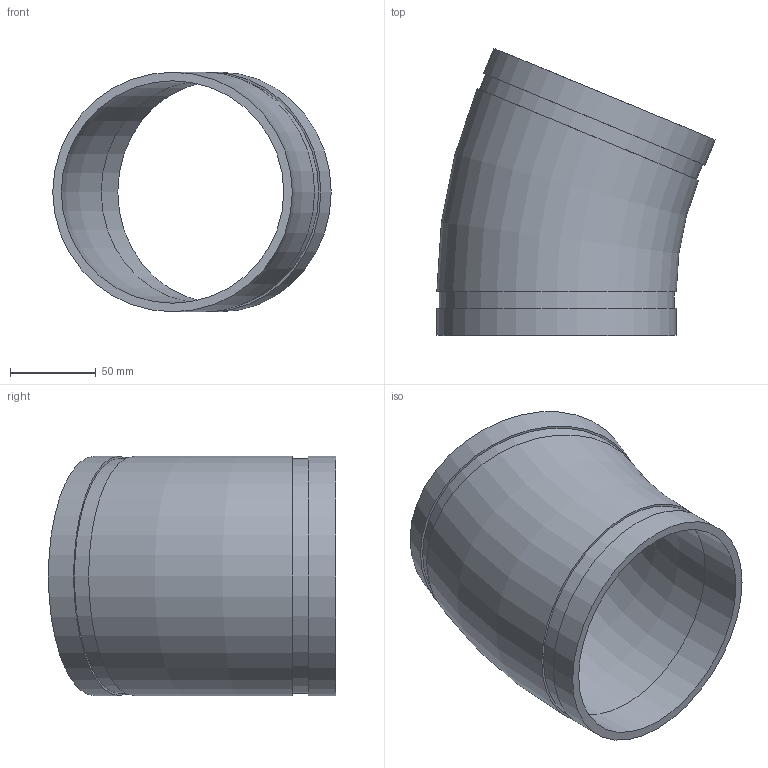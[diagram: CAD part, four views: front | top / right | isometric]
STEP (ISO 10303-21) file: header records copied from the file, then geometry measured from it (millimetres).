
FILE_DESCRIPTION(/* description */ ('VIC ELBOW 22 1/2 DEG No 12 (OGS)','CAx-IF Rec.Pracs.---Representation and Presentation of Product Manufacturing Information (PMI)---4.0---2014-10-13'),/* implementation_level */ '2;1');
FILE_NAME(/* name */ 'C:\Users\Vjadhav\Desktop\CAD for Inventor\1\12\STEP\Victaulic_IPS_Elbow 22.5 Deg_No 12 (OGS)\Victaulic_IPS_Elbow 22.5 Deg_No 12 (OGS)_05.0 (139.7) (125).stp',/* time_stamp */ '2021-12-22T09:20:16+06:00',/* author */ ('CONSTRUCTION PIPING SERVICES'),/* organization */ ('Victaulic'),/* preprocessor_version */ 'ST-DEVELOPER v17.2',/* originating_system */ 'Autodesk Inventor 2019',/* authorisation */ '');
FILE_SCHEMA (('AP242_MANAGED_MODEL_BASED_3D_ENGINEERING_MIM_LF { 1 0 10303 442 1 1 4 }'));
Length unit declared in the file: inch
Products named in the file (1): 012-05.0 (139.7)
Bounding box: 162.38 x 167.47 x 139.7 mm (x, y, z)
Volume: 295913.1 mm3; surface area: 129173 mm2
Topology: 1 solids, 1 shells, 14 faces, 32 edges, 24 vertices
Faces by surface type: plane 6, cylinder 6, torus 2
Full cylindrical faces by diameter (mm): 129.7 x2, 137.033 x2, 139.7 x2
Entity records: 576 total; most frequent: DIRECTION 114, CARTESIAN_POINT 88, ORIENTED_EDGE 64, AXIS2_PLACEMENT_3D 54, EDGE_CURVE 32, CIRCLE 26, VERTEX_POINT 24, EDGE_LOOP 20
